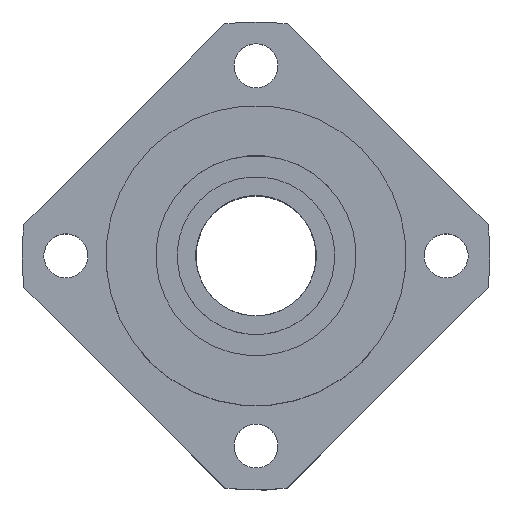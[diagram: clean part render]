
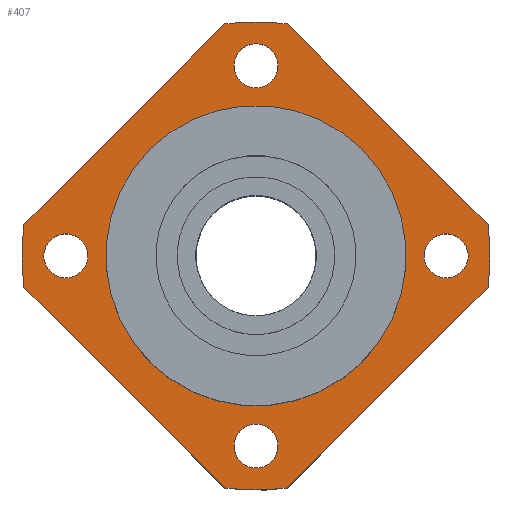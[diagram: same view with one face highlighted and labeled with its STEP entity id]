
A CAD part, top view. The second image highlights one B-rep face of the part: STEP entity #407.
In plain terms, the highlighted planar face has unit normal (0, 0, 1).
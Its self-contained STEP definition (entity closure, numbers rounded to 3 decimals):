
#198=PLANE('',#1664);
#275=LINE('',#2296,#331);
#279=LINE('',#2305,#335);
#283=LINE('',#2314,#339);
#287=LINE('',#2323,#343);
#331=VECTOR('',#1829,1.);
#335=VECTOR('',#1835,1.);
#339=VECTOR('',#1841,1.);
#343=VECTOR('',#1847,1.);
#407=ADVANCED_FACE('',(#550,#551,#552,#553,#554,#555),#198,.T.);
#550=FACE_BOUND('',#706,.T.);
#551=FACE_BOUND('',#707,.T.);
#552=FACE_BOUND('',#708,.T.);
#553=FACE_BOUND('',#709,.T.);
#554=FACE_BOUND('',#710,.T.);
#555=FACE_BOUND('',#711,.T.);
#706=EDGE_LOOP('',(#916,#917,#918,#919,#920,#921,#922,#923));
#707=EDGE_LOOP('',(#924));
#708=EDGE_LOOP('',(#925));
#709=EDGE_LOOP('',(#926));
#710=EDGE_LOOP('',(#927));
#711=EDGE_LOOP('',(#928));
#916=ORIENTED_EDGE('',*,*,#1346,.T.);
#917=ORIENTED_EDGE('',*,*,#1381,.T.);
#918=ORIENTED_EDGE('',*,*,#1350,.T.);
#919=ORIENTED_EDGE('',*,*,#1378,.T.);
#920=ORIENTED_EDGE('',*,*,#1354,.T.);
#921=ORIENTED_EDGE('',*,*,#1377,.T.);
#922=ORIENTED_EDGE('',*,*,#1358,.T.);
#923=ORIENTED_EDGE('',*,*,#1374,.T.);
#924=ORIENTED_EDGE('',*,*,#1342,.F.);
#925=ORIENTED_EDGE('',*,*,#1369,.F.);
#926=ORIENTED_EDGE('',*,*,#1382,.F.);
#927=ORIENTED_EDGE('',*,*,#1383,.F.);
#928=ORIENTED_EDGE('',*,*,#1384,.F.);
#1208=VERTEX_POINT('',#2287);
#1212=VERTEX_POINT('',#2295);
#1213=VERTEX_POINT('',#2297);
#1216=VERTEX_POINT('',#2304);
#1217=VERTEX_POINT('',#2306);
#1220=VERTEX_POINT('',#2313);
#1221=VERTEX_POINT('',#2315);
#1224=VERTEX_POINT('',#2322);
#1225=VERTEX_POINT('',#2324);
#1235=VERTEX_POINT('',#2354);
#1240=VERTEX_POINT('',#2381);
#1241=VERTEX_POINT('',#2383);
#1242=VERTEX_POINT('',#2385);
#1342=EDGE_CURVE('GENERATED CIRCLE',#1208,#1208,#1516,.T.);
#1346=EDGE_CURVE('LINE',#1213,#1212,#275,.T.);
#1350=EDGE_CURVE('LINE',#1217,#1216,#279,.T.);
#1354=EDGE_CURVE('LINE',#1221,#1220,#283,.T.);
#1358=EDGE_CURVE('LINE',#1225,#1224,#287,.T.);
#1369=EDGE_CURVE('GENERATED CIRCLE',#1235,#1235,#1527,.T.);
#1374=EDGE_CURVE('GENERATED CIRCLE',#1224,#1213,#1532,.T.);
#1377=EDGE_CURVE('GENERATED CIRCLE',#1220,#1225,#1535,.T.);
#1378=EDGE_CURVE('GENERATED CIRCLE',#1216,#1221,#1536,.T.);
#1381=EDGE_CURVE('GENERATED CIRCLE',#1212,#1217,#1539,.T.);
#1382=EDGE_CURVE('GENERATED CIRCLE',#1240,#1240,#1540,.T.);
#1383=EDGE_CURVE('GENERATED CIRCLE',#1241,#1241,#1541,.T.);
#1384=EDGE_CURVE('GENERATED CIRCLE',#1242,#1242,#1542,.T.);
#1516=CIRCLE('',#1615,5.5);
#1527=CIRCLE('',#1639,37.5);
#1532=CIRCLE('',#1649,58.5);
#1535=CIRCLE('',#1653,58.5);
#1536=CIRCLE('',#1655,58.5);
#1539=CIRCLE('',#1659,58.5);
#1540=CIRCLE('',#1661,5.5);
#1541=CIRCLE('',#1662,5.5);
#1542=CIRCLE('',#1663,5.5);
#1615=AXIS2_PLACEMENT_3D('',#2286,#1821,#1822);
#1639=AXIS2_PLACEMENT_3D('',#2353,#1885,#1886);
#1649=AXIS2_PLACEMENT_3D('',#2368,#1905,#1906);
#1653=AXIS2_PLACEMENT_3D('',#2372,#1913,#1914);
#1655=AXIS2_PLACEMENT_3D('',#2374,#1917,#1918);
#1659=AXIS2_PLACEMENT_3D('',#2378,#1925,#1926);
#1661=AXIS2_PLACEMENT_3D('',#2380,#1929,#1930);
#1662=AXIS2_PLACEMENT_3D('',#2382,#1931,#1932);
#1663=AXIS2_PLACEMENT_3D('',#2384,#1933,#1934);
#1664=AXIS2_PLACEMENT_3D('',#2386,#1935,#1936);
#1821=DIRECTION('',(0.,0.,1.));
#1822=DIRECTION('',(-1.,0.,0.));
#1829=DIRECTION('',(0.,1.,0.));
#1835=DIRECTION('',(-1.,0.,0.));
#1841=DIRECTION('',(0.,-1.,0.));
#1847=DIRECTION('',(1.,0.,0.));
#1885=DIRECTION('',(0.,0.,1.));
#1886=DIRECTION('',(1.,0.,0.));
#1905=DIRECTION('',(0.,0.,1.));
#1906=DIRECTION('',(1.,0.,0.));
#1913=DIRECTION('',(0.,0.,1.));
#1914=DIRECTION('',(1.,0.,0.));
#1917=DIRECTION('',(0.,0.,1.));
#1918=DIRECTION('',(1.,0.,0.));
#1925=DIRECTION('',(0.,0.,1.));
#1926=DIRECTION('',(1.,0.,0.));
#1929=DIRECTION('',(0.,0.,1.));
#1930=DIRECTION('',(1.,0.,0.));
#1931=DIRECTION('',(0.,0.,1.));
#1932=DIRECTION('',(1.,0.,0.));
#1933=DIRECTION('',(0.,0.,1.));
#1934=DIRECTION('',(1.,0.,0.));
#1935=DIRECTION('',(0.,0.,1.));
#1936=DIRECTION('',(-1.,0.,0.));
#2286=CARTESIAN_POINT('',(33.588,-33.588,15.));
#2287=CARTESIAN_POINT('',(28.088,-33.588,15.));
#2295=CARTESIAN_POINT('',(46.5,35.496,15.));
#2296=CARTESIAN_POINT('',(46.5,0.,15.));
#2297=CARTESIAN_POINT('',(46.5,-35.496,15.));
#2304=CARTESIAN_POINT('',(-35.496,46.5,15.));
#2305=CARTESIAN_POINT('',(0.,46.5,15.));
#2306=CARTESIAN_POINT('',(35.496,46.5,15.));
#2313=CARTESIAN_POINT('',(-46.5,-35.496,15.));
#2314=CARTESIAN_POINT('',(-46.5,0.,15.));
#2315=CARTESIAN_POINT('',(-46.5,35.496,15.));
#2322=CARTESIAN_POINT('',(35.496,-46.5,15.));
#2323=CARTESIAN_POINT('',(0.,-46.5,15.));
#2324=CARTESIAN_POINT('',(-35.496,-46.5,15.));
#2353=CARTESIAN_POINT('',(0.,0.,15.));
#2354=CARTESIAN_POINT('',(37.5,0.,15.));
#2368=CARTESIAN_POINT('',(0.,0.,15.));
#2372=CARTESIAN_POINT('',(0.,0.,15.));
#2374=CARTESIAN_POINT('',(0.,0.,15.));
#2378=CARTESIAN_POINT('',(0.,0.,15.));
#2380=CARTESIAN_POINT('',(33.588,33.588,15.));
#2381=CARTESIAN_POINT('',(39.088,33.588,15.));
#2382=CARTESIAN_POINT('',(-33.588,33.588,15.));
#2383=CARTESIAN_POINT('',(-28.088,33.588,15.));
#2384=CARTESIAN_POINT('',(-33.588,-33.588,15.));
#2385=CARTESIAN_POINT('',(-28.088,-33.588,15.));
#2386=CARTESIAN_POINT('',(0.,58.5,15.));
